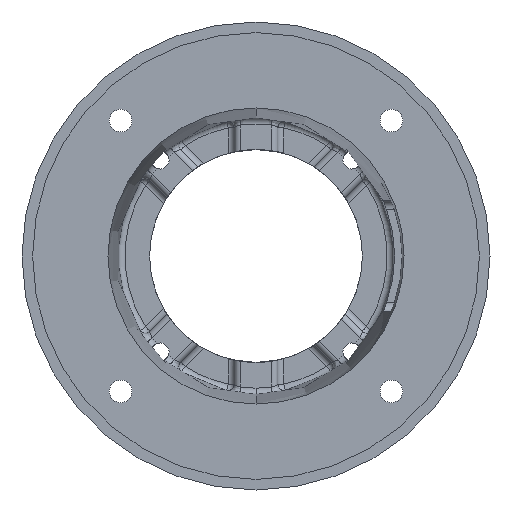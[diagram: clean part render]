
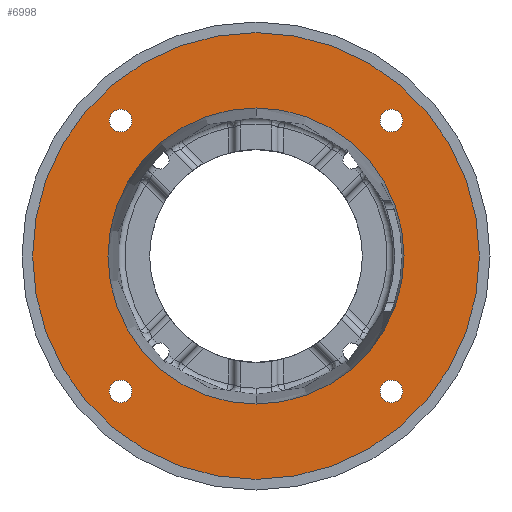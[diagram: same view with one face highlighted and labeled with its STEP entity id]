
A CAD part, front view. The second image highlights one B-rep face of the part: STEP entity #6998.
In plain terms, the highlighted planar face has unit normal (0, -1, 0).
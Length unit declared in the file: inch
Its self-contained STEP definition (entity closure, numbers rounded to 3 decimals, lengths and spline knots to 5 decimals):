
#88 = VERTEX_POINT ( 'NONE', #3435 ) ;
#92 = EDGE_CURVE ( 'NONE', #3276, #96, #3429, .T. ) ;
#96 = VERTEX_POINT ( 'NONE', #3478 ) ;
#128 = VERTEX_POINT ( 'NONE', #3542 ) ;
#129 = EDGE_CURVE ( 'NONE', #128, #88, #3541, .T. ) ;
#2379 = EDGE_CURVE ( 'NONE', #3077, #3045, #10766, .T. ) ;
#2474 = VERTEX_POINT ( 'NONE', #11020 ) ;
#2479 = VERTEX_POINT ( 'NONE', #11010 ) ;
#2537 = VERTEX_POINT ( 'NONE', #11123 ) ;
#2540 = EDGE_CURVE ( 'NONE', #2474, #2537, #11118, .T. ) ;
#2544 = EDGE_CURVE ( 'NONE', #2479, #2548, #11171, .T. ) ;
#2548 = VERTEX_POINT ( 'NONE', #11162 ) ;
#3045 = VERTEX_POINT ( 'NONE', #12550 ) ;
#3048 = EDGE_CURVE ( 'NONE', #3045, #3077, #12604, .T. ) ;
#3077 = VERTEX_POINT ( 'NONE', #12705 ) ;
#3088 = EDGE_CURVE ( 'NONE', #3096, #3089, #12729, .T. ) ;
#3089 = VERTEX_POINT ( 'NONE', #12724 ) ;
#3096 = VERTEX_POINT ( 'NONE', #12713 ) ;
#3276 = VERTEX_POINT ( 'NONE', #13313 ) ;
#3425 = DIRECTION ( 'NONE',  ( 0., 0., -1. ) ) ;
#3426 = DIRECTION ( 'NONE',  ( 0., -1., 0. ) ) ;
#3427 = CARTESIAN_POINT ( 'NONE',  ( -3.18198, 0.18, -3.18198 ) ) ;
#3428 = AXIS2_PLACEMENT_3D ( 'NONE', #3427, #3426, #3425 ) ;
#3429 = CIRCLE ( 'NONE', #3428, 0.26562 ) ;
#3435 = CARTESIAN_POINT ( 'NONE',  ( 0., 0.18, -5.2505 ) ) ;
#3478 = CARTESIAN_POINT ( 'NONE',  ( -3.18198, 0.18, -3.44761 ) ) ;
#3537 = DIRECTION ( 'NONE',  ( 0., 0., -1. ) ) ;
#3538 = DIRECTION ( 'NONE',  ( 0., -1., 0. ) ) ;
#3539 = CARTESIAN_POINT ( 'NONE',  ( 0., 0.18, 0. ) ) ;
#3540 = AXIS2_PLACEMENT_3D ( 'NONE', #3539, #3538, #3537 ) ;
#3541 = CIRCLE ( 'NONE', #3540, 5.2505 ) ;
#3542 = CARTESIAN_POINT ( 'NONE',  ( 0., 0.18, 5.2505 ) ) ;
#6987 = ORIENTED_EDGE ( 'NONE', *, *, #6988, .F. ) ;
#6988 = EDGE_CURVE ( 'NONE', #2537, #2474, #13486, .T. ) ;
#6989 = EDGE_LOOP ( 'NONE', ( #6987, #7020 ) ) ;
#6990 = ORIENTED_EDGE ( 'NONE', *, *, #2544, .F. ) ;
#6991 = EDGE_LOOP ( 'NONE', ( #6992, #6990 ) ) ;
#6992 = ORIENTED_EDGE ( 'NONE', *, *, #6993, .F. ) ;
#6993 = EDGE_CURVE ( 'NONE', #2548, #2479, #13482, .T. ) ;
#6995 = ORIENTED_EDGE ( 'NONE', *, *, #129, .T. ) ;
#6996 = ORIENTED_EDGE ( 'NONE', *, *, #3048, .T. ) ;
#6997 = ORIENTED_EDGE ( 'NONE', *, *, #2379, .T. ) ;
#6998 = ADVANCED_FACE ( 'NONE', ( #13478, #13477, #13476, #13475, #13474, #13473 ), #13472, .T. ) ;
#6999 = EDGE_CURVE ( 'NONE', #88, #128, #13466, .T. ) ;
#7001 = EDGE_LOOP ( 'NONE', ( #6996, #6997 ) ) ;
#7002 = ORIENTED_EDGE ( 'NONE', *, *, #6999, .T. ) ;
#7003 = EDGE_LOOP ( 'NONE', ( #7002, #6995 ) ) ;
#7004 = EDGE_LOOP ( 'NONE', ( #7007, #7006 ) ) ;
#7005 = EDGE_CURVE ( 'NONE', #96, #3276, #13522, .T. ) ;
#7006 = ORIENTED_EDGE ( 'NONE', *, *, #92, .F. ) ;
#7007 = ORIENTED_EDGE ( 'NONE', *, *, #7005, .F. ) ;
#7008 = ORIENTED_EDGE ( 'NONE', *, *, #3088, .F. ) ;
#7010 = ORIENTED_EDGE ( 'NONE', *, *, #7014, .F. ) ;
#7014 = EDGE_CURVE ( 'NONE', #3089, #3096, #13517, .T. ) ;
#7018 = EDGE_LOOP ( 'NONE', ( #7010, #7008 ) ) ;
#7020 = ORIENTED_EDGE ( 'NONE', *, *, #2540, .F. ) ;
#10762 = DIRECTION ( 'NONE',  ( 0., 0., -1. ) ) ;
#10763 = DIRECTION ( 'NONE',  ( 0., 1., 0. ) ) ;
#10764 = CARTESIAN_POINT ( 'NONE',  ( 0., 0.18, 0. ) ) ;
#10765 = AXIS2_PLACEMENT_3D ( 'NONE', #10764, #10763, #10762 ) ;
#10766 = CIRCLE ( 'NONE', #10765, 3.47973 ) ;
#11010 = CARTESIAN_POINT ( 'NONE',  ( -3.18198, 0.18, 3.44761 ) ) ;
#11020 = CARTESIAN_POINT ( 'NONE',  ( 3.18198, 0.18, 3.44761 ) ) ;
#11116 = CARTESIAN_POINT ( 'NONE',  ( 3.18198, 0.18, 3.18198 ) ) ;
#11117 = AXIS2_PLACEMENT_3D ( 'NONE', #11116, #11178, #11177 ) ;
#11118 = CIRCLE ( 'NONE', #11117, 0.26562 ) ;
#11123 = CARTESIAN_POINT ( 'NONE',  ( 3.18198, 0.18, 2.91636 ) ) ;
#11162 = CARTESIAN_POINT ( 'NONE',  ( -3.18198, 0.18, 2.91636 ) ) ;
#11167 = DIRECTION ( 'NONE',  ( 0., 0., -1. ) ) ;
#11168 = DIRECTION ( 'NONE',  ( 0., -1., 0. ) ) ;
#11169 = CARTESIAN_POINT ( 'NONE',  ( -3.18198, 0.18, 3.18198 ) ) ;
#11170 = AXIS2_PLACEMENT_3D ( 'NONE', #11169, #11168, #11167 ) ;
#11171 = CIRCLE ( 'NONE', #11170, 0.26562 ) ;
#11177 = DIRECTION ( 'NONE',  ( 0., 0., -1. ) ) ;
#11178 = DIRECTION ( 'NONE',  ( 0., -1., 0. ) ) ;
#12550 = CARTESIAN_POINT ( 'NONE',  ( 0., 0.18, -3.47973 ) ) ;
#12600 = DIRECTION ( 'NONE',  ( 0., 0., -1. ) ) ;
#12601 = DIRECTION ( 'NONE',  ( 0., 1., 0. ) ) ;
#12602 = CARTESIAN_POINT ( 'NONE',  ( 0., 0.18, 0. ) ) ;
#12603 = AXIS2_PLACEMENT_3D ( 'NONE', #12602, #12601, #12600 ) ;
#12604 = CIRCLE ( 'NONE', #12603, 3.47973 ) ;
#12705 = CARTESIAN_POINT ( 'NONE',  ( 0., 0.18, 3.47973 ) ) ;
#12713 = CARTESIAN_POINT ( 'NONE',  ( 3.18198, 0.18, -2.91636 ) ) ;
#12724 = CARTESIAN_POINT ( 'NONE',  ( 3.18198, 0.18, -3.44761 ) ) ;
#12725 = DIRECTION ( 'NONE',  ( 0., 0., -1. ) ) ;
#12726 = DIRECTION ( 'NONE',  ( 0., -1., 0. ) ) ;
#12727 = CARTESIAN_POINT ( 'NONE',  ( 3.18198, 0.18, -3.18198 ) ) ;
#12728 = AXIS2_PLACEMENT_3D ( 'NONE', #12727, #12726, #12725 ) ;
#12729 = CIRCLE ( 'NONE', #12728, 0.26562 ) ;
#13313 = CARTESIAN_POINT ( 'NONE',  ( -3.18198, 0.18, -2.91636 ) ) ;
#13462 = DIRECTION ( 'NONE',  ( 0., 0., -1. ) ) ;
#13463 = DIRECTION ( 'NONE',  ( 0., -1., 0. ) ) ;
#13464 = CARTESIAN_POINT ( 'NONE',  ( 0., 0.18, 0. ) ) ;
#13465 = AXIS2_PLACEMENT_3D ( 'NONE', #13464, #13463, #13462 ) ;
#13466 = CIRCLE ( 'NONE', #13465, 5.2505 ) ;
#13468 = DIRECTION ( 'NONE',  ( 0., 0., -1. ) ) ;
#13469 = DIRECTION ( 'NONE',  ( 0., -1., 0. ) ) ;
#13470 = CARTESIAN_POINT ( 'NONE',  ( 0., 0.18, 0. ) ) ;
#13471 = AXIS2_PLACEMENT_3D ( 'NONE', #13470, #13469, #13468 ) ;
#13472 = PLANE ( 'NONE',  #13471 ) ;
#13473 = FACE_BOUND ( 'NONE', #7001, .T. ) ;
#13474 = FACE_OUTER_BOUND ( 'NONE', #7003, .T. ) ;
#13475 = FACE_BOUND ( 'NONE', #7004, .T. ) ;
#13476 = FACE_BOUND ( 'NONE', #7018, .T. ) ;
#13477 = FACE_BOUND ( 'NONE', #6989, .T. ) ;
#13478 = FACE_BOUND ( 'NONE', #6991, .T. ) ;
#13479 = DIRECTION ( 'NONE',  ( 0., 0., -1. ) ) ;
#13480 = DIRECTION ( 'NONE',  ( 0., -1., 0. ) ) ;
#13481 = AXIS2_PLACEMENT_3D ( 'NONE', #13487, #13480, #13479 ) ;
#13482 = CIRCLE ( 'NONE', #13481, 0.26562 ) ;
#13483 = DIRECTION ( 'NONE',  ( 0., 0., -1. ) ) ;
#13484 = DIRECTION ( 'NONE',  ( 0., -1., 0. ) ) ;
#13485 = AXIS2_PLACEMENT_3D ( 'NONE', #13492, #13484, #13483 ) ;
#13486 = CIRCLE ( 'NONE', #13485, 0.26562 ) ;
#13487 = CARTESIAN_POINT ( 'NONE',  ( -3.18198, 0.18, 3.18198 ) ) ;
#13492 = CARTESIAN_POINT ( 'NONE',  ( 3.18198, 0.18, 3.18198 ) ) ;
#13513 = DIRECTION ( 'NONE',  ( 0., 0., -1. ) ) ;
#13514 = DIRECTION ( 'NONE',  ( 0., -1., 0. ) ) ;
#13515 = CARTESIAN_POINT ( 'NONE',  ( 3.18198, 0.18, -3.18198 ) ) ;
#13516 = AXIS2_PLACEMENT_3D ( 'NONE', #13515, #13514, #13513 ) ;
#13517 = CIRCLE ( 'NONE', #13516, 0.26562 ) ;
#13518 = DIRECTION ( 'NONE',  ( 0., 0., -1. ) ) ;
#13519 = DIRECTION ( 'NONE',  ( 0., -1., 0. ) ) ;
#13520 = CARTESIAN_POINT ( 'NONE',  ( -3.18198, 0.18, -3.18198 ) ) ;
#13521 = AXIS2_PLACEMENT_3D ( 'NONE', #13520, #13519, #13518 ) ;
#13522 = CIRCLE ( 'NONE', #13521, 0.26562 ) ;
